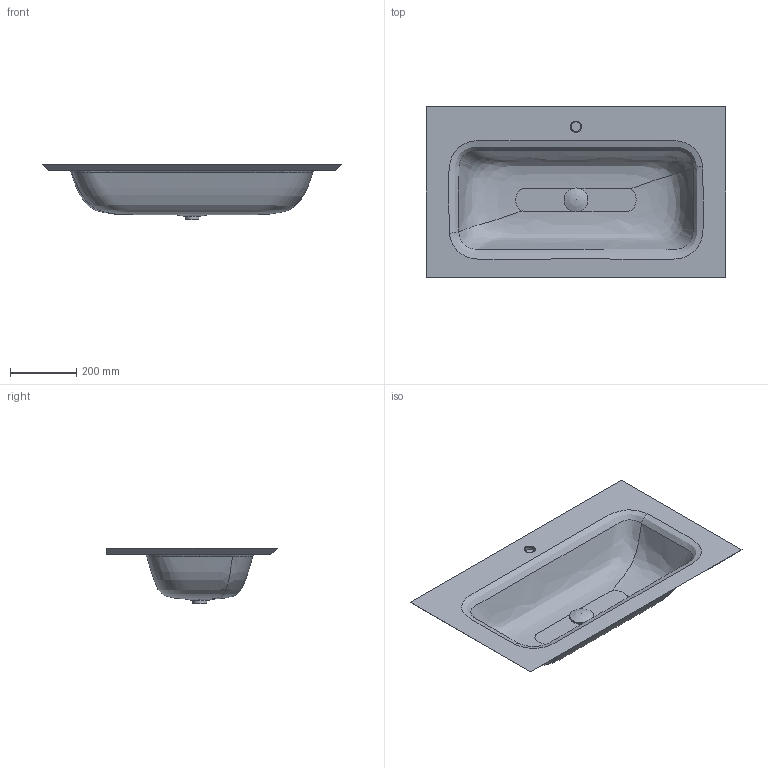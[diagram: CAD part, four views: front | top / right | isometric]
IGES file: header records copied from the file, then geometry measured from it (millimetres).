
Start section: Data from Parasolid IGES Translator 19.0.9, Copyright(c) 2006 Siemens PL M Software. All Rights Reserved.
Global section: file name: noorth-top-H 1,9 D 51,3 W 90_4782.igs; native system: By Siemens PLM Incorporated; preprocessor: XPlus GENERIC/IGES 19.0.9; author: Noname; organization: Noname; date: 20200603.103934; units: metre
Bounding box: 900 x 513 x 166.92 mm (x, y, z)
Volume: 7676097.5 mm3; surface area: 1282003 mm2
Topology: 4 solids, 4 shells, 62 faces, 185 edges, 134 vertices
Faces by surface type: plane 18, bspline 17, revolution 13, cylinder 10, extrusion 3, cone 1
Full cylindrical faces by diameter (mm): 0.043 x1, 19.989 x1, 30 x1, 50 x1, 62.239 x1, 71.973 x1
